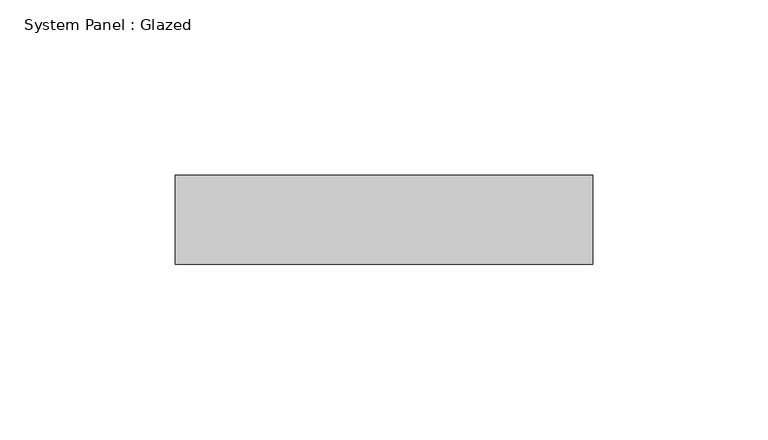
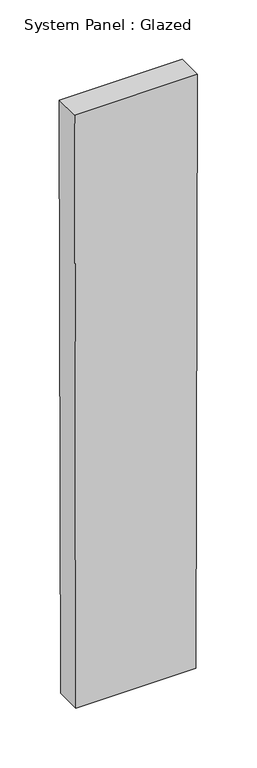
"""IFC4 building model written with IfcOpenShell, lengths in millimetres: plate geometry, System Panel : Glazed."""

from ifc_helpers import new_model, si_unit, frame, origin, place, context, project, spatial, polyline, outline, extrude, source, transform, mapped, element, save


def system_panel_glazed_18d00bfd(model_context):
    return source(origin(), model_context, "Body", "SweptSolid", [
        extrude(outline(polyline([(0.0, -58.3276679), (0.0, 58.3276679), (609.5985661, 59.6498695), (609.5985661, -59.6498695), (0.0, -58.3276679)])), frame((0.0, -44.45, 0.0), z_axis=(0.0, 1.0, 0.0), x_axis=(0.0, 0.0, 1.0)), (0.0, 0.0, 1.0), 25.4),
    ])


if __name__ == "__main__":
    model = new_model("IFC4")
    model_context = context("Model", 3, world=origin())
    ifc_project = project(units=[si_unit("LENGTHUNIT", "METRE", prefix="MILLI")], contexts=[model_context])
    site = spatial("IfcSite", under=ifc_project)
    building = spatial("IfcBuilding", under=site)
    placement = place(None, origin())
    system_panel_glazed_shape = system_panel_glazed_18d00bfd(model_context)
    element("IfcPlate", 1, ObjectType="System Panel : Glazed", at=placement, inside=building, context=model_context, shape_type="MappedRepresentation", body=[
        mapped(system_panel_glazed_shape, transform((0.0, 0.0, 0.0), x_axis=(1.0, 0.0, 0.0), y_axis=(0.0, 1.0, 0.0), z_axis=(0.0, 0.0, 1.0))),
    ])
    save(model, "model.ifc")
